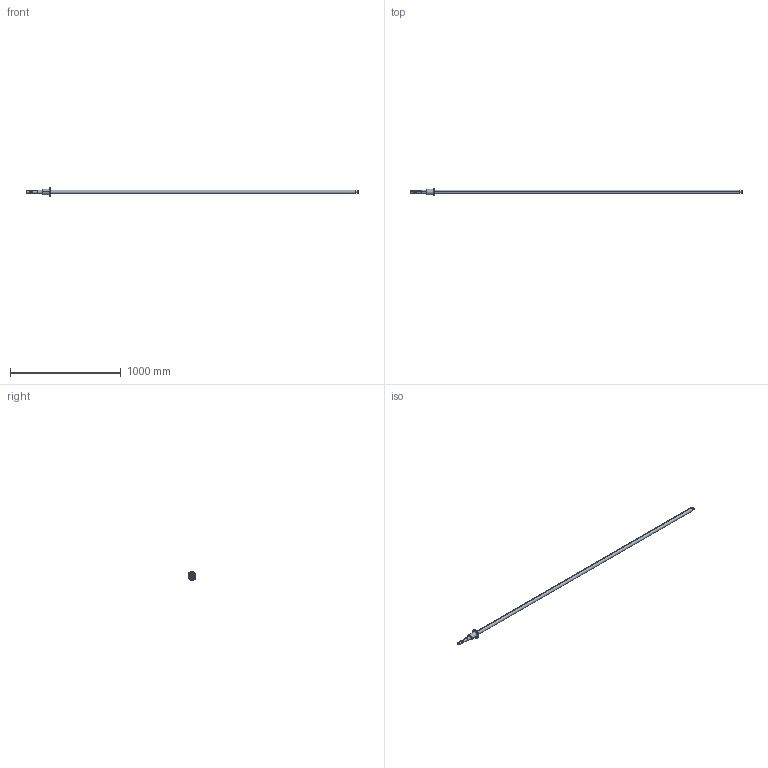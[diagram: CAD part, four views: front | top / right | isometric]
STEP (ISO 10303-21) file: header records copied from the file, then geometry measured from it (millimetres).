
FILE_DESCRIPTION (( 'STEP AP214' ), '1' );
FILE_NAME ('7.3014 STSR3220-DFC7-3000mm.STEP', '2026-03-10T08:12:50', ( '' ), ( '' ), 'SwSTEP 2.0', 'SolidWorks 2025', '' );
FILE_SCHEMA (( 'AUTOMOTIVE_DESIGN' ));
Length unit declared in the file: millimetre
Products named in the file (3): 7.3014 STSR3220-DFC7-3000mm; 7.3109 STSR3220B1D; 7.3038 TSR3220-FC7
Assembly tree (2 placements, depth 2):
  7.3014 STSR3220-DFC7-3000mm
    7.3038 TSR3220-FC7
    7.3109 STSR3220B1D
Bounding box: 3000 x 62.14 x 79.76 mm (x, y, z)
Volume: 2484347.9 mm3; surface area: 332943.5 mm2
Topology: 2 solids, 2 shells, 155 faces, 395 edges, 259 vertices
Faces by surface type: cylinder 77, plane 34, bspline 29, cone 9, torus 6
Entity records: 16451 total; most frequent: CARTESIAN_POINT 12140, ORIENTED_EDGE 790, DIRECTION 604, EDGE_CURVE 395, VERTEX_POINT 259, AXIS2_PLACEMENT_3D 219, EDGE_LOOP 184, VECTOR 166
